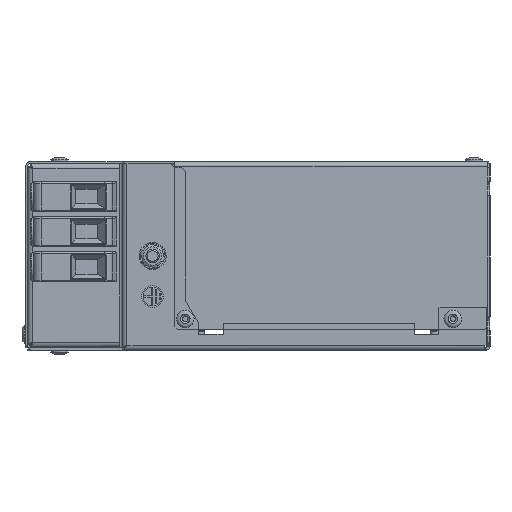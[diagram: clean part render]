
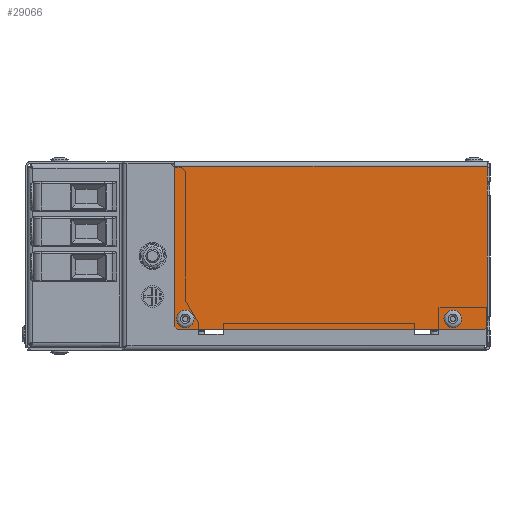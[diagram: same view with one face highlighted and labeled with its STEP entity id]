
A CAD part, left-side view. The second image highlights one B-rep face of the part: STEP entity #29066.
In plain terms, the highlighted planar face has unit normal (-1, 0, 0).
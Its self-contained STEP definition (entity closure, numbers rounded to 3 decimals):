
#799=FACE_BOUND('',#6069,.T.);
#800=FACE_BOUND('',#6070,.T.);
#1784=CIRCLE('',#31682,3.25);
#1829=CIRCLE('',#31766,3.25);
#3955=FACE_OUTER_BOUND('',#6068,.T.);
#6068=EDGE_LOOP('',(#24266,#24267,#24268,#24269,#24270,#24271));
#6069=EDGE_LOOP('',(#24272));
#6070=EDGE_LOOP('',(#24273));
#8280=LINE('',#47390,#10745);
#8608=LINE('',#49133,#11073);
#8615=LINE('',#49145,#11080);
#8618=LINE('',#49150,#11083);
#8642=LINE('',#49196,#11107);
#8645=LINE('',#49205,#11110);
#10745=VECTOR('',#38123,10.);
#11073=VECTOR('',#39481,10.);
#11080=VECTOR('',#39492,10.);
#11083=VECTOR('',#39497,1.114);
#11107=VECTOR('',#39547,10.);
#11110=VECTOR('',#39562,10.);
#13151=VERTEX_POINT('',#47387);
#13152=VERTEX_POINT('',#47389);
#13379=VERTEX_POINT('',#48717);
#13424=VERTEX_POINT('',#48936);
#13484=VERTEX_POINT('',#49132);
#13486=VERTEX_POINT('',#49143);
#13487=VERTEX_POINT('',#49144);
#13488=VERTEX_POINT('',#49149);
#16553=EDGE_CURVE('',#13151,#13152,#8280,.T.);
#16968=EDGE_CURVE('',#13379,#13379,#1784,.T.);
#17016=EDGE_CURVE('',#13424,#13424,#1829,.T.);
#17099=EDGE_CURVE('',#13152,#13484,#8608,.T.);
#17106=EDGE_CURVE('',#13486,#13487,#8615,.T.);
#17109=EDGE_CURVE('',#13487,#13488,#8618,.T.);
#17133=EDGE_CURVE('',#13151,#13488,#8642,.T.);
#17139=EDGE_CURVE('',#13484,#13486,#8645,.T.);
#24266=ORIENTED_EDGE('',*,*,#17099,.F.);
#24267=ORIENTED_EDGE('',*,*,#16553,.F.);
#24268=ORIENTED_EDGE('',*,*,#17133,.T.);
#24269=ORIENTED_EDGE('',*,*,#17109,.F.);
#24270=ORIENTED_EDGE('',*,*,#17106,.F.);
#24271=ORIENTED_EDGE('',*,*,#17139,.F.);
#24272=ORIENTED_EDGE('',*,*,#16968,.T.);
#24273=ORIENTED_EDGE('',*,*,#17016,.T.);
#25675=PLANE('',#31819);
#29066=ADVANCED_FACE('',(#3955,#799,#800),#25675,.T.);
#31682=AXIS2_PLACEMENT_3D('',#48718,#39176,#39177);
#31766=AXIS2_PLACEMENT_3D('',#48937,#39344,#39345);
#31819=AXIS2_PLACEMENT_3D('',#49206,#39563,#39564);
#38123=DIRECTION('',(0.,0.,-1.));
#39176=DIRECTION('center_axis',(1.,0.,0.));
#39177=DIRECTION('ref_axis',(0.,-0.002,
-1.));
#39344=DIRECTION('center_axis',(1.,0.,0.));
#39345=DIRECTION('ref_axis',(0.,-0.002,
-1.));
#39481=DIRECTION('',(0.,0.707,-0.707));
#39492=DIRECTION('',(0.,0.707,0.707));
#39497=DIRECTION('',(0.,0.,1.));
#39547=DIRECTION('',(0.,1.,0.));
#39562=DIRECTION('',(0.,1.,0.));
#39563=DIRECTION('center_axis',(-1.,0.,0.));
#39564=DIRECTION('ref_axis',(0.,0.,1.));
#47387=CARTESIAN_POINT('',(-118.7,1.,33.15));
#47389=CARTESIAN_POINT('',(-118.7,1.,-26.45));
#47390=CARTESIAN_POINT('',(-118.7,1.,33.15));
#48717=CARTESIAN_POINT('',(-118.7,13.806,-20.2));
#48718=CARTESIAN_POINT('Origin',(-118.7,13.8,-23.45));
#48936=CARTESIAN_POINT('',(-118.7,112.906,-20.2));
#48937=CARTESIAN_POINT('Origin',(-118.7,112.9,-23.45));
#49132=CARTESIAN_POINT('',(-118.7,2.,-27.45));
#49133=CARTESIAN_POINT('',(-118.7,8.181,-33.631));
#49143=CARTESIAN_POINT('',(-118.7,115.8,-27.45));
#49144=CARTESIAN_POINT('',(-118.7,116.8,-26.45));
#49145=CARTESIAN_POINT('',(-118.7,109.619,-33.631));
#49149=CARTESIAN_POINT('',(-118.7,116.8,33.15));
#49150=CARTESIAN_POINT('',(-118.7,116.8,36.65));
#49196=CARTESIAN_POINT('',(-118.7,58.9,33.15));
#49205=CARTESIAN_POINT('',(-118.7,1.,-27.45));
#49206=CARTESIAN_POINT('Origin',(-118.7,58.9,3.725));
